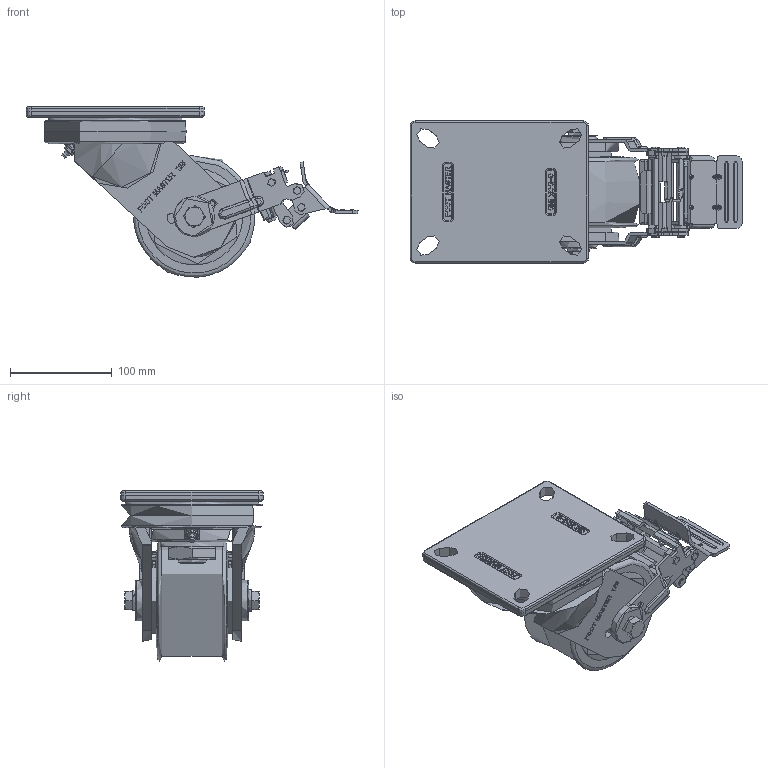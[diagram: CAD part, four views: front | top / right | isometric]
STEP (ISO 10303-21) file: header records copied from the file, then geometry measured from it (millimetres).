
FILE_DESCRIPTION(/* description */ (''),/* implementation_level */ '2;1');
FILE_NAME(/* name */ 'Y:\1.기술연구소\2.연구개발 진행중\133.고하중캐스터 브레이크 타입 변경건_2025.11.03\1.도면\4.홈페이지용 도면\01. 3D\GXT-125 SERIES\GXT-125-STEP\GXT-125-BSF-MCD-TB.stp',/* time_stamp */ '2026-07-22T10:58:53+09:00',/* author */ ('장용하'),/* organization */ (''),/* preprocessor_version */ 'ST-DEVELOPER v18.1',/* originating_system */ 'Autodesk Inventor 2021',/* authorisation */ '');
FILE_SCHEMA (('CONFIG_CONTROL_DESIGN'));
Length unit declared in the file: millimetre
Products named in the file (1): GXT-125-BSF-MCD-TB
Bounding box: 325.64 x 140 x 166.83 mm (x, y, z)
Topology: 1 solids, 5 shells, 1749 faces, 4670 edges, 3017 vertices
Faces by surface type: plane 724, bspline 475, cylinder 437, torus 68, cone 33, sphere 12
Full cylindrical faces by diameter (mm): 2 x7, 4 x6, 6 x2, 6.2 x14, 6.3 x2, 6.5 x4, 6.6 x2, 6.8 x4, 8 x6, 8.5 x4, 12 x2, 12.5 x2, 13 x2, 30 x1, 40 x2, 62.5 x1, 65 x2, 131.086 x1
Entity records: 60395 total; most frequent: CARTESIAN_POINT 18813, ORIENTED_EDGE 9340, DIRECTION 7594, EDGE_CURVE 4670, VERTEX_POINT 3017, AXIS2_PLACEMENT_3D 2588, LINE 2418, VECTOR 2418
